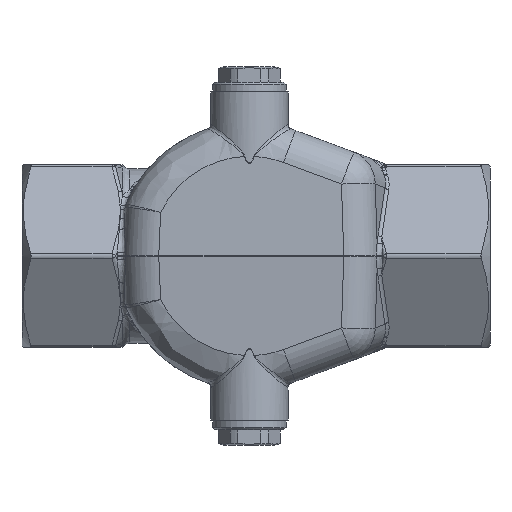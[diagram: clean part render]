
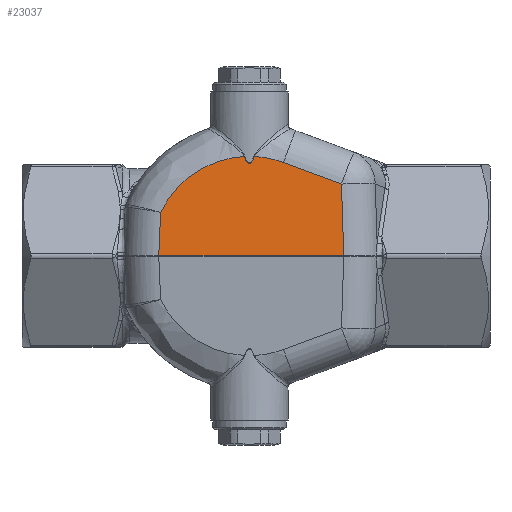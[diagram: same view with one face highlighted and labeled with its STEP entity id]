
A CAD part, front view. The second image highlights one B-rep face of the part: STEP entity #23037.
In plain terms, the highlighted planar face has unit normal (0, -0.999, 0.044).
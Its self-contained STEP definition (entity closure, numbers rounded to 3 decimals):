
#347=ELLIPSE('',#24421,222.378,9.7);
#353=ELLIPSE('',#24432,22.021,22.);
#354=ELLIPSE('',#24434,22.021,22.);
#1671=PLANE('',#24725);
#3008=LINE('',#58700,#4507);
#3017=LINE('',#60128,#4516);
#3028=LINE('',#61599,#4527);
#3029=LINE('',#61605,#4528);
#4507=VECTOR('',#28611,10.);
#4516=VECTOR('',#28726,10.);
#4527=VECTOR('',#28935,10.);
#4528=VECTOR('',#28946,10.);
#6186=FACE_OUTER_BOUND('',#7645,.T.);
#7645=EDGE_LOOP('',(#18532,#18533,#18534,#18535,#18536,#18537,#18538));
#10642=VERTEX_POINT('',#55045);
#10643=VERTEX_POINT('',#55072);
#10656=VERTEX_POINT('',#55372);
#10657=VERTEX_POINT('',#55411);
#10780=VERTEX_POINT('',#58692);
#10782=VERTEX_POINT('',#58698);
#10839=VERTEX_POINT('',#60126);
#13167=EDGE_CURVE('',#10643,#10642,#347,.T.);
#13186=EDGE_CURVE('',#10642,#10656,#353,.T.);
#13189=EDGE_CURVE('',#10657,#10643,#354,.T.);
#13415=EDGE_CURVE('',#10782,#10780,#3008,.T.);
#13517=EDGE_CURVE('',#10839,#10657,#3017,.T.);
#13634=EDGE_CURVE('',#10656,#10782,#3028,.T.);
#13636=EDGE_CURVE('',#10780,#10839,#3029,.T.);
#18532=ORIENTED_EDGE('',*,*,#13167,.F.);
#18533=ORIENTED_EDGE('',*,*,#13189,.F.);
#18534=ORIENTED_EDGE('',*,*,#13517,.F.);
#18535=ORIENTED_EDGE('',*,*,#13636,.F.);
#18536=ORIENTED_EDGE('',*,*,#13415,.F.);
#18537=ORIENTED_EDGE('',*,*,#13634,.F.);
#18538=ORIENTED_EDGE('',*,*,#13186,.F.);
#23037=ADVANCED_FACE('',(#6186),#1671,.T.);
#24421=AXIS2_PLACEMENT_3D('',#55074,#28293,#28294);
#24432=AXIS2_PLACEMENT_3D('',#55373,#28317,#28318);
#24434=AXIS2_PLACEMENT_3D('',#55497,#28321,#28322);
#24725=AXIS2_PLACEMENT_3D('',#61604,#28944,#28945);
#28293=DIRECTION('center_axis',(0.,-0.999,
0.044));
#28294=DIRECTION('ref_axis',(0.,-0.044,-0.999));
#28317=DIRECTION('center_axis',(0.,0.999,
-0.044));
#28318=DIRECTION('ref_axis',(0.,0.044,0.999));
#28321=DIRECTION('center_axis',(0.,0.999,
-0.044));
#28322=DIRECTION('ref_axis',(0.,0.044,0.999));
#28611=DIRECTION('',(0.031,-0.044,-0.999));
#28726=DIRECTION('',(0.044,0.044,0.998));
#28935=DIRECTION('',(0.937,-0.015,-0.348));
#28944=DIRECTION('center_axis',(0.,-0.999,
0.044));
#28945=DIRECTION('ref_axis',(-1.,0.,0.));
#28946=DIRECTION('',(-1.,0.,0.));
#55045=CARTESIAN_POINT('',(1.127,-27.135,22.32));
#55072=CARTESIAN_POINT('',(-1.127,-27.135,22.32));
#55074=CARTESIAN_POINT('Origin',(0.,-17.501,
242.983));
#55372=CARTESIAN_POINT('',(7.65,-27.194,20.976));
#55373=CARTESIAN_POINT('Origin',(0.,-28.095,
0.349));
#55411=CARTESIAN_POINT('',(-19.892,-27.684,9.746));
#55497=CARTESIAN_POINT('Origin',(0.,-28.095,
0.349));
#58692=CARTESIAN_POINT('',(21.186,-28.108,0.044));
#58698=CARTESIAN_POINT('',(20.679,-27.405,16.144));
#58700=CARTESIAN_POINT('',(20.223,-26.772,30.65));
#60126=CARTESIAN_POINT('',(-20.316,-28.108,0.044));
#60128=CARTESIAN_POINT('',(-19.002,-26.795,30.12));
#61599=CARTESIAN_POINT('',(-9.187,-26.921,27.22));
#61604=CARTESIAN_POINT('Origin',(-27.,-26.8,30.));
#61605=CARTESIAN_POINT('',(-27.,-28.108,0.044));
